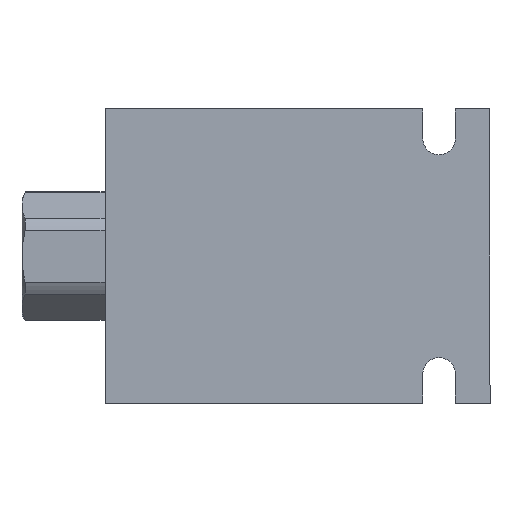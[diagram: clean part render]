
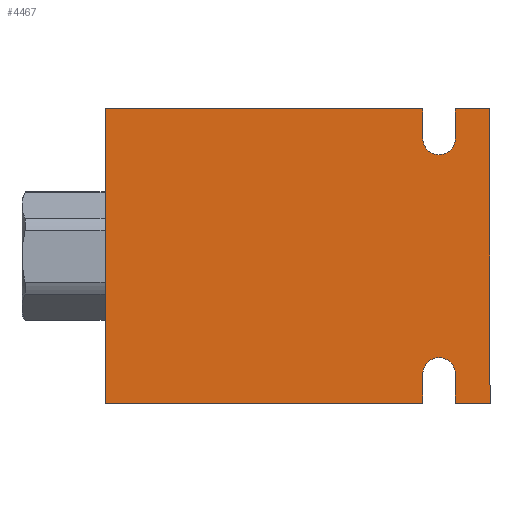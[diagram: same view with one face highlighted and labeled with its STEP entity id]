
A CAD part, front view. The second image highlights one B-rep face of the part: STEP entity #4467.
In plain terms, the highlighted planar face has unit normal (0, -1, 0) as drawn and (0, 1, 0) by its records, which use the part's own axes.
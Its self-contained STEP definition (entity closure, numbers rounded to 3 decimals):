
#106=LINE('',#8682,#253);
#110=LINE('',#8777,#257);
#112=LINE('',#8846,#259);
#119=LINE('',#9053,#266);
#123=LINE('',#9065,#270);
#124=LINE('',#9067,#271);
#128=LINE('',#9074,#275);
#129=LINE('',#9076,#276);
#131=LINE('',#9079,#278);
#134=LINE('',#9084,#281);
#253=VECTOR('',#6854,1000.);
#257=VECTOR('',#6862,1000.);
#259=VECTOR('',#6876,1000.);
#266=VECTOR('',#6959,1000.);
#270=VECTOR('',#6971,1000.);
#271=VECTOR('',#6974,1000.);
#275=VECTOR('',#6980,1000.);
#276=VECTOR('',#6983,1000.);
#278=VECTOR('',#6987,1000.);
#281=VECTOR('',#6994,1000.);
#689=PLANE('',#6064);
#1469=ORIENTED_EDGE('',*,*,#2336,.F.);
#1470=ORIENTED_EDGE('',*,*,#2335,.F.);
#1471=ORIENTED_EDGE('',*,*,#2237,.F.);
#1472=ORIENTED_EDGE('',*,*,#2331,.T.);
#1473=ORIENTED_EDGE('',*,*,#2330,.T.);
#1474=ORIENTED_EDGE('',*,*,#2327,.T.);
#1475=ORIENTED_EDGE('',*,*,#2324,.T.);
#1476=ORIENTED_EDGE('',*,*,#2204,.T.);
#1477=ORIENTED_EDGE('',*,*,#2341,.T.);
#1478=ORIENTED_EDGE('',*,*,#2262,.F.);
#1479=ORIENTED_EDGE('',*,*,#2338,.F.);
#1480=ORIENTED_EDGE('',*,*,#2318,.F.);
#2204=EDGE_CURVE('',#3517,#3519,#106,.T.);
#2237=EDGE_CURVE('',#3552,#3550,#110,.T.);
#2262=EDGE_CURVE('',#3576,#3578,#112,.T.);
#2318=EDGE_CURVE('',#3632,#3633,#2673,.T.);
#2324=EDGE_CURVE('',#3636,#3517,#119,.T.);
#2327=EDGE_CURVE('',#3638,#3636,#2676,.F.);
#2330=EDGE_CURVE('',#3640,#3638,#123,.T.);
#2331=EDGE_CURVE('',#3552,#3640,#124,.T.);
#2335=EDGE_CURVE('',#3550,#3643,#128,.T.);
#2336=EDGE_CURVE('',#3643,#3632,#129,.T.);
#2338=EDGE_CURVE('',#3633,#3576,#131,.T.);
#2341=EDGE_CURVE('',#3519,#3578,#134,.T.);
#2673=CIRCLE('',#6052,3.5);
#2676=CIRCLE('',#6057,3.5);
#3046=EDGE_LOOP('',(#1469,#1470,#1471,#1472,#1473,#1474,#1475,#1476,#1477,
#1478,#1479,#1480));
#3517=VERTEX_POINT('',#8677);
#3519=VERTEX_POINT('',#8681);
#3550=VERTEX_POINT('',#8772);
#3552=VERTEX_POINT('',#8776);
#3576=VERTEX_POINT('',#8844);
#3578=VERTEX_POINT('',#8847);
#3632=VERTEX_POINT('',#9041);
#3633=VERTEX_POINT('',#9042);
#3636=VERTEX_POINT('',#9050);
#3638=VERTEX_POINT('',#9056);
#3640=VERTEX_POINT('',#9062);
#3643=VERTEX_POINT('',#9072);
#4105=FACE_BOUND('',#3046,.T.);
#4467=ADVANCED_FACE('',(#4105),#689,.T.);
#6052=AXIS2_PLACEMENT_3D('',#9040,#6949,#6950);
#6057=AXIS2_PLACEMENT_3D('',#9059,#6965,#6966);
#6064=AXIS2_PLACEMENT_3D('',#9083,#6992,#6993);
#6854=DIRECTION('',(1.,0.,0.));
#6862=DIRECTION('',(0.,0.,-1.));
#6876=DIRECTION('',(1.,0.,0.));
#6949=DIRECTION('',(0.,1.,0.));
#6950=DIRECTION('',(-1.,0.,0.));
#6959=DIRECTION('',(0.,0.,1.));
#6965=DIRECTION('',(0.,1.,0.));
#6966=DIRECTION('',(-1.,0.,0.));
#6971=DIRECTION('',(0.,0.,-1.));
#6974=DIRECTION('',(1.,0.,0.));
#6980=DIRECTION('',(1.,0.,0.));
#6983=DIRECTION('',(0.,0.,1.));
#6987=DIRECTION('',(0.,0.,-1.));
#6992=DIRECTION('',(0.,1.,0.));
#6993=DIRECTION('',(-1.,0.,0.));
#6994=DIRECTION('',(0.,0.,-1.));
#8677=CARTESIAN_POINT('',(-27.,19.05,63.5));
#8681=CARTESIAN_POINT('',(41.5,19.05,63.5));
#8682=CARTESIAN_POINT('',(-41.5,19.05,63.5));
#8772=CARTESIAN_POINT('',(-41.5,19.05,0.));
#8776=CARTESIAN_POINT('',(-41.5,19.05,63.5));
#8777=CARTESIAN_POINT('',(-41.5,19.05,63.5));
#8844=CARTESIAN_POINT('',(-27.,19.05,0.));
#8846=CARTESIAN_POINT('',(-41.5,19.05,0.));
#8847=CARTESIAN_POINT('',(41.5,19.05,0.));
#9040=CARTESIAN_POINT('',(-30.5,19.05,6.3));
#9041=CARTESIAN_POINT('',(-34.,19.05,6.3));
#9042=CARTESIAN_POINT('',(-27.,19.05,6.3));
#9050=CARTESIAN_POINT('',(-27.,19.05,57.1));
#9053=CARTESIAN_POINT('',(-27.,19.05,63.5));
#9056=CARTESIAN_POINT('',(-34.,19.05,57.1));
#9059=CARTESIAN_POINT('',(-30.5,19.05,57.1));
#9062=CARTESIAN_POINT('',(-34.,19.05,63.5));
#9065=CARTESIAN_POINT('',(-34.,19.05,63.5));
#9067=CARTESIAN_POINT('',(-41.5,19.05,63.5));
#9072=CARTESIAN_POINT('',(-34.,19.05,0.));
#9074=CARTESIAN_POINT('',(-41.5,19.05,0.));
#9076=CARTESIAN_POINT('',(-34.,19.05,63.5));
#9079=CARTESIAN_POINT('',(-27.,19.05,63.5));
#9083=CARTESIAN_POINT('',(-41.5,19.05,63.5));
#9084=CARTESIAN_POINT('',(41.5,19.05,63.5));
